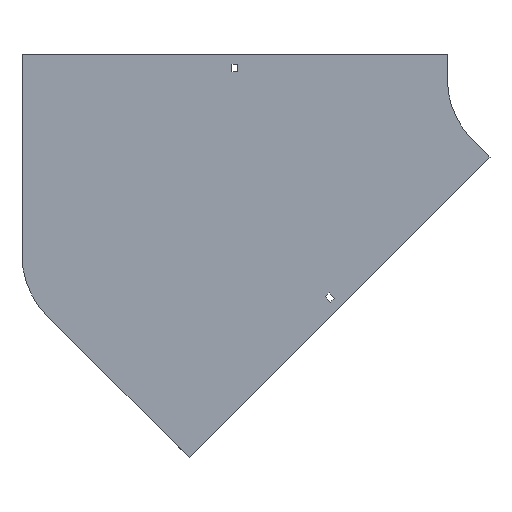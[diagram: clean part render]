
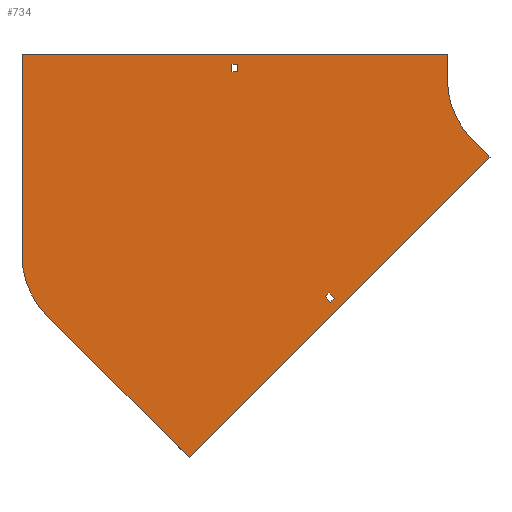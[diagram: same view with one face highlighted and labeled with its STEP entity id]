
A CAD part, front view. The second image highlights one B-rep face of the part: STEP entity #734.
In plain terms, the highlighted planar face has unit normal (0, -1, 0).
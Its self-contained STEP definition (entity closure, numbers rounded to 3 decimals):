
#1 = LINE ( 'NONE', #19, #193 ) ;
#8 = FACE_OUTER_BOUND ( 'NONE', #607, .T. ) ;
#19 = CARTESIAN_POINT ( 'NONE',  ( -355.25, 0., 18. ) ) ;
#23 = VERTEX_POINT ( 'NONE', #1016 ) ;
#26 = LINE ( 'NONE', #904, #379 ) ;
#29 = CARTESIAN_POINT ( 'NONE',  ( -240.24, 0., -252.967 ) ) ;
#30 = ORIENTED_EDGE ( 'NONE', *, *, #946, .F. ) ;
#56 = CIRCLE ( 'NONE', #699, 100. ) ;
#67 = CARTESIAN_POINT ( 'NONE',  ( -100., 0., 30. ) ) ;
#78 = VECTOR ( 'NONE', #1209, 1000. ) ;
#90 = EDGE_CURVE ( 'NONE', #1296, #444, #389, .T. ) ;
#100 = VECTOR ( 'NONE', #1002, 1000. ) ;
#108 = DIRECTION ( 'NONE',  ( 0., 0., 1. ) ) ;
#109 = EDGE_CURVE ( 'NONE', #622, #1351, #597, .T. ) ;
#114 = CARTESIAN_POINT ( 'NONE',  ( -405.879, 0., -448.306 ) ) ;
#115 = CARTESIAN_POINT ( 'NONE',  ( -348.75, 0., 9. ) ) ;
#121 = CARTESIAN_POINT ( 'NONE',  ( -604., 0., -208.764 ) ) ;
#128 = EDGE_CURVE ( 'NONE', #663, #349, #159, .T. ) ;
#130 = CARTESIAN_POINT ( 'NONE',  ( -574.711, 0., -279.474 ) ) ;
#153 = DIRECTION ( 'NONE',  ( 0., 0., 1. ) ) ;
#156 = CARTESIAN_POINT ( 'NONE',  ( -355.25, 0., 9. ) ) ;
#159 = LINE ( 'NONE', #67, #1107 ) ;
#167 = CARTESIAN_POINT ( 'NONE',  ( -355.25, 0., 9. ) ) ;
#174 = VECTOR ( 'NONE', #722, 1000. ) ;
#175 = CARTESIAN_POINT ( 'NONE',  ( -244.836, 0., -257.564 ) ) ;
#193 = VECTOR ( 'NONE', #333, 1000. ) ;
#230 = CARTESIAN_POINT ( 'NONE',  ( -604., 0., 30. ) ) ;
#231 = CARTESIAN_POINT ( 'NONE',  ( -238.472, 0., -263.928 ) ) ;
#242 = VERTEX_POINT ( 'NONE', #1161 ) ;
#243 = FACE_BOUND ( 'NONE', #288, .T. ) ;
#261 = LINE ( 'NONE', #175, #908 ) ;
#268 = DIRECTION ( 'NONE',  ( 0.707, 0., -0.707 ) ) ;
#277 = CARTESIAN_POINT ( 'NONE',  ( -238.472, 0., -263.928 ) ) ;
#288 = EDGE_LOOP ( 'NONE', ( #640, #782, #408, #508 ) ) ;
#323 = DIRECTION ( 'NONE',  ( 0., 0., -1. ) ) ;
#333 = DIRECTION ( 'NONE',  ( 1., 0., 0. ) ) ;
#339 = PLANE ( 'NONE',  #788 ) ;
#345 = DIRECTION ( 'NONE',  ( 0., -1., 0. ) ) ;
#349 = VERTEX_POINT ( 'NONE', #1203 ) ;
#352 = EDGE_CURVE ( 'NONE', #1222, #1139, #1191, .T. ) ;
#356 = VERTEX_POINT ( 'NONE', #121 ) ;
#371 = DIRECTION ( 'NONE',  ( -0.707, 0., -0.707 ) ) ;
#372 = EDGE_CURVE ( 'NONE', #858, #1296, #549, .T. ) ;
#379 = VECTOR ( 'NONE', #268, 1000. ) ;
#386 = ORIENTED_EDGE ( 'NONE', *, *, #428, .F. ) ;
#387 = VERTEX_POINT ( 'NONE', #130 ) ;
#389 = LINE ( 'NONE', #1054, #1031 ) ;
#408 = ORIENTED_EDGE ( 'NONE', *, *, #900, .F. ) ;
#428 = EDGE_CURVE ( 'NONE', #387, #356, #56, .T. ) ;
#430 = DIRECTION ( 'NONE',  ( 0., -1., 0. ) ) ;
#439 = FACE_BOUND ( 'NONE', #747, .T. ) ;
#441 = CARTESIAN_POINT ( 'NONE',  ( -504., 0., -208.764 ) ) ;
#444 = VERTEX_POINT ( 'NONE', #29 ) ;
#454 = DIRECTION ( 'NONE',  ( 0., 0., -1. ) ) ;
#471 = CARTESIAN_POINT ( 'NONE',  ( -49.497, 0., -91.924 ) ) ;
#472 = CARTESIAN_POINT ( 'NONE',  ( -355.25, 0., 18. ) ) ;
#473 = VERTEX_POINT ( 'NONE', #1030 ) ;
#485 = LINE ( 'NONE', #1367, #174 ) ;
#489 = VERTEX_POINT ( 'NONE', #831 ) ;
#504 = CARTESIAN_POINT ( 'NONE',  ( -49.497, 0., -91.924 ) ) ;
#508 = ORIENTED_EDGE ( 'NONE', *, *, #90, .F. ) ;
#549 = LINE ( 'NONE', #231, #100 ) ;
#553 = VERTEX_POINT ( 'NONE', #504 ) ;
#562 = EDGE_CURVE ( 'NONE', #242, #858, #261, .T. ) ;
#597 = LINE ( 'NONE', #167, #983 ) ;
#607 = EDGE_LOOP ( 'NONE', ( #1183, #1068, #386, #1011, #30, #1284, #1080, #1141 ) ) ;
#621 = CARTESIAN_POINT ( 'NONE',  ( -355.25, 0., 9. ) ) ;
#622 = VERTEX_POINT ( 'NONE', #621 ) ;
#629 = VECTOR ( 'NONE', #1202, 1000. ) ;
#640 = ORIENTED_EDGE ( 'NONE', *, *, #372, .F. ) ;
#663 = VERTEX_POINT ( 'NONE', #863 ) ;
#664 = CARTESIAN_POINT ( 'NONE',  ( 0., 0., 0. ) ) ;
#680 = LINE ( 'NONE', #114, #1216 ) ;
#697 = DIRECTION ( 'NONE',  ( 0.707, 0., -0.707 ) ) ;
#698 = EDGE_CURVE ( 'NONE', #489, #663, #760, .T. ) ;
#699 = AXIS2_PLACEMENT_3D ( 'NONE', #441, #887, #108 ) ;
#705 = DIRECTION ( 'NONE',  ( -0.707, 0., -0.707 ) ) ;
#722 = DIRECTION ( 'NONE',  ( 0., 0., 1. ) ) ;
#732 = EDGE_CURVE ( 'NONE', #473, #387, #680, .T. ) ;
#734 = ADVANCED_FACE ( 'NONE', ( #439, #8, #243 ), #339, .T. ) ;
#747 = EDGE_LOOP ( 'NONE', ( #1386, #1254, #1029, #1289 ) ) ;
#759 = EDGE_CURVE ( 'NONE', #1351, #1222, #1, .T. ) ;
#760 = LINE ( 'NONE', #230, #629 ) ;
#782 = ORIENTED_EDGE ( 'NONE', *, *, #562, .F. ) ;
#788 = AXIS2_PLACEMENT_3D ( 'NONE', #664, #345, #454 ) ;
#790 = VECTOR ( 'NONE', #929, 1000. ) ;
#828 = CARTESIAN_POINT ( 'NONE',  ( -348.75, 0., 18. ) ) ;
#831 = CARTESIAN_POINT ( 'NONE',  ( -604., 0., 30. ) ) ;
#858 = VERTEX_POINT ( 'NONE', #277 ) ;
#863 = CARTESIAN_POINT ( 'NONE',  ( -100., 0., 30. ) ) ;
#885 = CIRCLE ( 'NONE', #1048, 100. ) ;
#887 = DIRECTION ( 'NONE',  ( 0., 1., 0. ) ) ;
#892 = EDGE_CURVE ( 'NONE', #23, #553, #26, .T. ) ;
#900 = EDGE_CURVE ( 'NONE', #444, #242, #1131, .T. ) ;
#904 = CARTESIAN_POINT ( 'NONE',  ( -70.711, 0., -70.711 ) ) ;
#908 = VECTOR ( 'NONE', #697, 1000. ) ;
#913 = EDGE_CURVE ( 'NONE', #1139, #622, #915, .T. ) ;
#915 = LINE ( 'NONE', #156, #790 ) ;
#929 = DIRECTION ( 'NONE',  ( -1., 0., 0. ) ) ;
#935 = DIRECTION ( 'NONE',  ( -0.707, 0., 0.707 ) ) ;
#946 = EDGE_CURVE ( 'NONE', #553, #473, #1247, .T. ) ;
#983 = VECTOR ( 'NONE', #153, 1000. ) ;
#1002 = DIRECTION ( 'NONE',  ( 0.707, 0., 0.707 ) ) ;
#1006 = DIRECTION ( 'NONE',  ( -0.707, 0., 0.707 ) ) ;
#1011 = ORIENTED_EDGE ( 'NONE', *, *, #732, .F. ) ;
#1016 = CARTESIAN_POINT ( 'NONE',  ( -70.711, 0., -70.711 ) ) ;
#1028 = CARTESIAN_POINT ( 'NONE',  ( -244.836, 0., -257.564 ) ) ;
#1029 = ORIENTED_EDGE ( 'NONE', *, *, #352, .T. ) ;
#1030 = CARTESIAN_POINT ( 'NONE',  ( -405.879, 0., -448.306 ) ) ;
#1031 = VECTOR ( 'NONE', #935, 1000. ) ;
#1048 = AXIS2_PLACEMENT_3D ( 'NONE', #1122, #430, #323 ) ;
#1054 = CARTESIAN_POINT ( 'NONE',  ( -240.24, 0., -252.967 ) ) ;
#1068 = ORIENTED_EDGE ( 'NONE', *, *, #1189, .F. ) ;
#1069 = VECTOR ( 'NONE', #371, 1000. ) ;
#1080 = ORIENTED_EDGE ( 'NONE', *, *, #1090, .F. ) ;
#1090 = EDGE_CURVE ( 'NONE', #349, #23, #885, .T. ) ;
#1107 = VECTOR ( 'NONE', #1371, 1000. ) ;
#1122 = CARTESIAN_POINT ( 'NONE',  ( 0., 0., 0. ) ) ;
#1131 = LINE ( 'NONE', #1028, #1378 ) ;
#1139 = VERTEX_POINT ( 'NONE', #1245 ) ;
#1141 = ORIENTED_EDGE ( 'NONE', *, *, #128, .F. ) ;
#1161 = CARTESIAN_POINT ( 'NONE',  ( -244.836, 0., -257.564 ) ) ;
#1183 = ORIENTED_EDGE ( 'NONE', *, *, #698, .F. ) ;
#1189 = EDGE_CURVE ( 'NONE', #356, #489, #485, .T. ) ;
#1191 = LINE ( 'NONE', #115, #78 ) ;
#1202 = DIRECTION ( 'NONE',  ( 1., 0., 0. ) ) ;
#1203 = CARTESIAN_POINT ( 'NONE',  ( -100., 0., 0. ) ) ;
#1209 = DIRECTION ( 'NONE',  ( 0., 0., -1. ) ) ;
#1216 = VECTOR ( 'NONE', #1006, 1000. ) ;
#1222 = VERTEX_POINT ( 'NONE', #828 ) ;
#1245 = CARTESIAN_POINT ( 'NONE',  ( -348.75, 0., 9. ) ) ;
#1247 = LINE ( 'NONE', #471, #1069 ) ;
#1254 = ORIENTED_EDGE ( 'NONE', *, *, #759, .T. ) ;
#1281 = CARTESIAN_POINT ( 'NONE',  ( -233.876, 0., -259.331 ) ) ;
#1284 = ORIENTED_EDGE ( 'NONE', *, *, #892, .F. ) ;
#1289 = ORIENTED_EDGE ( 'NONE', *, *, #913, .T. ) ;
#1296 = VERTEX_POINT ( 'NONE', #1281 ) ;
#1351 = VERTEX_POINT ( 'NONE', #472 ) ;
#1367 = CARTESIAN_POINT ( 'NONE',  ( -604., 0., -208.764 ) ) ;
#1371 = DIRECTION ( 'NONE',  ( 0., 0., -1. ) ) ;
#1378 = VECTOR ( 'NONE', #705, 1000. ) ;
#1386 = ORIENTED_EDGE ( 'NONE', *, *, #109, .T. ) ;
